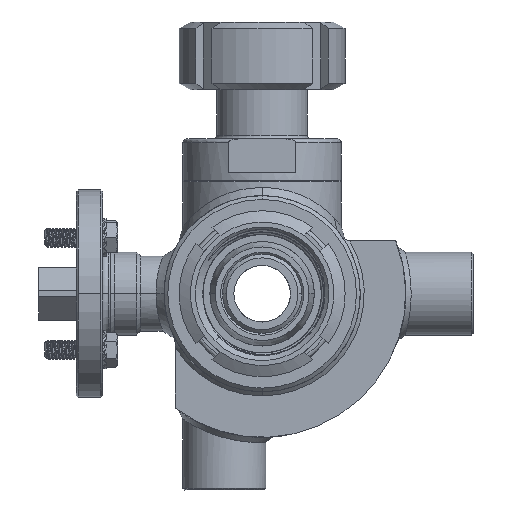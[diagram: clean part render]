
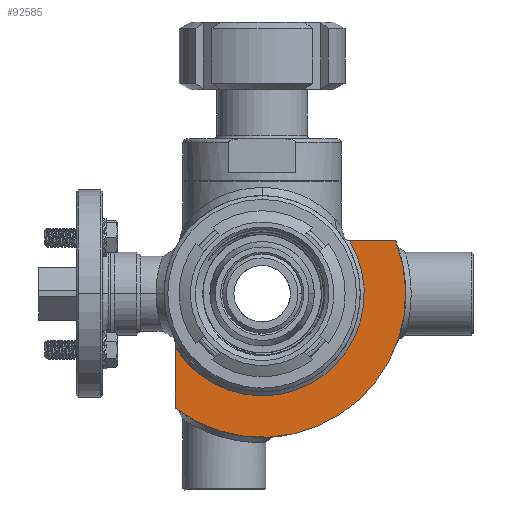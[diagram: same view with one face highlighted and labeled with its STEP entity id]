
A CAD part, left-side view. The second image highlights one B-rep face of the part: STEP entity #92585.
In plain terms, the highlighted planar face has unit normal (-1, 0, 0).
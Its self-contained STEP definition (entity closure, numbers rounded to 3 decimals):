
#9704=CARTESIAN_POINT('',(-26.,0.,0.));
#9705=DIRECTION('',(1.,0.,0.));
#9706=DIRECTION('',(0.,0.,-1.));
#9707=AXIS2_PLACEMENT_3D('',#9704,#9705,#9706);
#9712=CARTESIAN_POINT('',(-26.,0.,0.));
#9713=DIRECTION('',(1.,0.,0.));
#9714=DIRECTION('',(0.,-0.856,0.517));
#9715=AXIS2_PLACEMENT_3D('',#9712,#9713,#9714);
#9720=DIRECTION('',(0.,1.,0.));
#9721=VECTOR('',#9720,12.223);
#9722=CARTESIAN_POINT('',(-26.,-35.381,14.));
#9723=LINE('',#9722,#9721);
#9727=CARTESIAN_POINT('',(-26.,0.,0.));
#9728=DIRECTION('',(-1.,0.,0.));
#9729=DIRECTION('',(0.,0.604,-0.797));
#9730=AXIS2_PLACEMENT_3D('',#9727,#9728,#9729);
#9735=DIRECTION('',(0.,0.,-1.));
#9736=VECTOR('',#9735,16.054);
#9737=CARTESIAN_POINT('',(-26.,23.,-14.258));
#9738=LINE('',#9737,#9736);
#80707=CARTESIAN_POINT('',(-26.,23.,-30.312));
#80708=CARTESIAN_POINT('',(-26.,-35.381,14.));
#80709=VERTEX_POINT('',#80707);
#80710=VERTEX_POINT('',#80708);
#81425=CARTESIAN_POINT('',(-26.,0.,-27.061));
#81426=CARTESIAN_POINT('',(-26.,23.,-14.258));
#81427=VERTEX_POINT('',#81425);
#81428=VERTEX_POINT('',#81426);
#81429=CARTESIAN_POINT('',(-26.,-23.158,14.));
#81430=VERTEX_POINT('',#81429);
#92571=CARTESIAN_POINT('',(-26.,0.,0.));
#92572=DIRECTION('',(-1.,0.,0.));
#92573=DIRECTION('',(0.,0.,1.));
#92574=AXIS2_PLACEMENT_3D('',#92571,#92572,#92573);
#92575=PLANE('',#92574);
#92577=ORIENTED_EDGE('',*,*,#92576,.F.);
#92578=ORIENTED_EDGE('',*,*,#92553,.F.);
#92579=ORIENTED_EDGE('',*,*,#92469,.F.);
#92580=ORIENTED_EDGE('',*,*,#92205,.F.);
#92582=ORIENTED_EDGE('',*,*,#92581,.F.);
#92583=EDGE_LOOP('',(#92577,#92578,#92579,#92580,#92582));
#92584=FACE_OUTER_BOUND('',#92583,.F.);
#92585=ADVANCED_FACE('',(#92584),#92575,.T.);
#9708=CIRCLE('',#9707,27.061);
#9716=CIRCLE('',#9715,27.061);
#9731=CIRCLE('',#9730,38.05);
#92205=EDGE_CURVE('',#80709,#80710,#9731,.T.);
#92469=EDGE_CURVE('',#80710,#81430,#9723,.T.);
#92553=EDGE_CURVE('',#81430,#81427,#9716,.T.);
#92576=EDGE_CURVE('',#81427,#81428,#9708,.T.);
#92581=EDGE_CURVE('',#81428,#80709,#9738,.T.);
